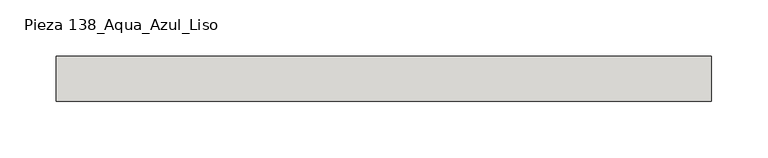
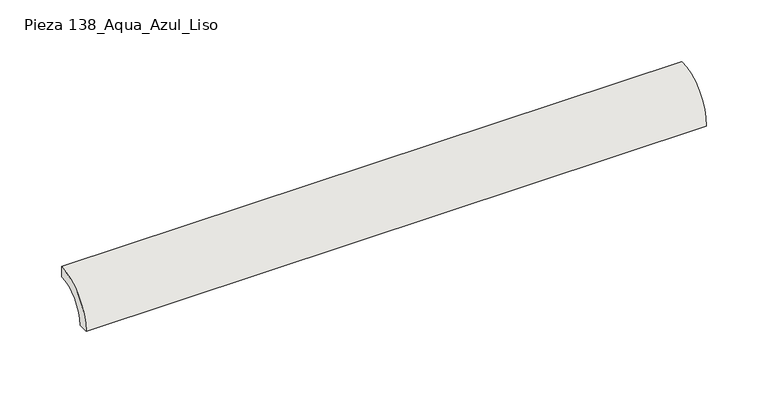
"""IFC4 building model written with IfcOpenShell, lengths in millimetres: slab geometry, ROSA GRES_138 : Pieza 138_Aqua_Azul_Liso."""

from ifc_helpers import new_model, si_unit, point, frame, frame_2d, origin, origin_2d, place, context, project, spatial, polyline, circle_curve, trimmed, segment, composite_curve, outline, extrude, source, transform, mapped, element, save


def pieza_138_aqua_azul_liso_81b033b2(model_context):
    return source(origin(), model_context, "Body", "SweptSolid", [
        extrude(outline(composite_curve([segment(polyline([(0.0, 40.0), (0.0, 30.0265886)]), True, "CONTINUOUS"), segment(trimmed(circle_curve(frame_2d((-0.0044453, 0.0044453)), 30.0221435), [point((0.0, 30.0265886))], [point((-30.0265886, 0.0))], True, "CARTESIAN"), True, "CONTINUOUS"), segment(polyline([(-30.0265886, 0.0), (-40.0, 0.0)]), True, "CONTINUOUS"), segment(trimmed(circle_curve(origin_2d(), 40.0), [point((-40.0, 0.0))], [point((0.0, 40.0))], False, "CARTESIAN"), True, "CONTINUOUS")], self_intersect=False)), frame((0.0, 0.0, 0.0), z_axis=(1.0, 0.0, 0.0), x_axis=(0.0, 1.0, 0.0)), (0.0, 0.0, 1.0), 582.017694),
    ])


if __name__ == "__main__":
    model = new_model("IFC4")
    model_context = context("Model", 3, world=origin())
    ifc_project = project(units=[si_unit("LENGTHUNIT", "METRE", prefix="MILLI")], contexts=[model_context])
    site = spatial("IfcSite", under=ifc_project)
    building = spatial("IfcBuilding", under=site)
    placement = place(None, origin())
    pieza_138_aqua_azul_liso_shape = pieza_138_aqua_azul_liso_81b033b2(model_context)
    element("IfcSlab", 1, ObjectType="ROSA GRES_138 : Pieza 138_Aqua_Azul_Liso", at=placement, inside=building, context=model_context, shape_type="MappedRepresentation", body=[
        mapped(pieza_138_aqua_azul_liso_shape, transform((0.0, 0.0, 0.0), x_axis=(1.0, 0.0, 0.0), y_axis=(0.0, 1.0, 0.0), z_axis=(0.0, 0.0, 1.0))),
    ])
    save(model, "model.ifc")
